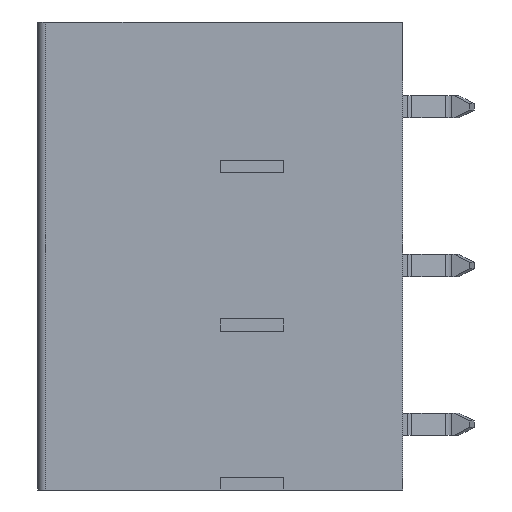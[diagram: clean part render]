
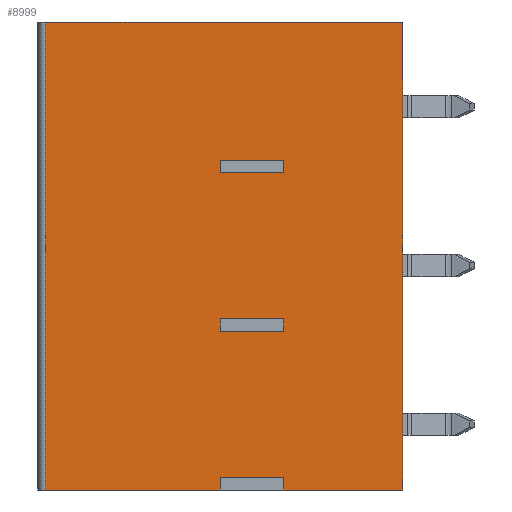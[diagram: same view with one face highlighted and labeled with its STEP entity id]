
A CAD part, left-side view. The second image highlights one B-rep face of the part: STEP entity #8999.
In plain terms, the highlighted planar face has unit normal (-1, 0, 0).
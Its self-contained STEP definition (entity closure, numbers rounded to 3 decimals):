
#119=DIRECTION('',(0.,-1.,0.));
#120=VECTOR('',#119,11.);
#121=CARTESIAN_POINT('',(1.463,22.5,-29.));
#122=LINE('',#121,#120);
#127=DIRECTION('',(0.,-1.,0.));
#128=VECTOR('',#127,7.5);
#129=CARTESIAN_POINT('',(1.463,7.5,-29.));
#130=LINE('',#129,#128);
#965=DIRECTION('',(0.,0.,-1.));
#966=VECTOR('',#965,29.5);
#967=CARTESIAN_POINT('',(1.463,0.,0.5));
#968=LINE('',#967,#966);
#969=DIRECTION('',(0.,0.,-1.));
#970=VECTOR('',#969,0.8);
#971=CARTESIAN_POINT('',(1.463,11.5,-28.2));
#972=LINE('',#971,#970);
#973=DIRECTION('',(0.,0.,-1.));
#974=VECTOR('',#973,0.8);
#975=CARTESIAN_POINT('',(1.463,11.5,-18.2));
#976=LINE('',#975,#974);
#977=DIRECTION('',(0.,0.,-1.));
#978=VECTOR('',#977,0.8);
#979=CARTESIAN_POINT('',(1.463,11.5,-8.2));
#980=LINE('',#979,#978);
#985=DIRECTION('',(0.,0.,-1.));
#986=VECTOR('',#985,29.5);
#987=CARTESIAN_POINT('',(1.463,22.5,0.5));
#988=LINE('',#987,#986);
#1038=DIRECTION('',(0.,1.,0.));
#1039=VECTOR('',#1038,22.5);
#1040=CARTESIAN_POINT('',(1.463,0.,0.5));
#1041=LINE('',#1040,#1039);
#1050=DIRECTION('',(0.,0.,-1.));
#1051=VECTOR('',#1050,0.8);
#1052=CARTESIAN_POINT('',(1.463,7.5,-28.2));
#1053=LINE('',#1052,#1051);
#1070=DIRECTION('',(0.,-1.,0.));
#1071=VECTOR('',#1070,4.);
#1072=CARTESIAN_POINT('',(1.463,11.5,-28.2));
#1073=LINE('',#1072,#1071);
#1102=DIRECTION('',(0.,-1.,0.));
#1103=VECTOR('',#1102,4.);
#1104=CARTESIAN_POINT('',(1.463,11.5,-18.2));
#1105=LINE('',#1104,#1103);
#1114=DIRECTION('',(0.,0.,-1.));
#1115=VECTOR('',#1114,0.8);
#1116=CARTESIAN_POINT('',(1.463,7.5,-18.2));
#1117=LINE('',#1116,#1115);
#1126=DIRECTION('',(0.,1.,0.));
#1127=VECTOR('',#1126,4.);
#1128=CARTESIAN_POINT('',(1.463,7.5,-19.));
#1129=LINE('',#1128,#1127);
#1142=DIRECTION('',(0.,1.,0.));
#1143=VECTOR('',#1142,4.);
#1144=CARTESIAN_POINT('',(1.463,7.5,-9.));
#1145=LINE('',#1144,#1143);
#1150=DIRECTION('',(0.,0.,-1.));
#1151=VECTOR('',#1150,0.8);
#1152=CARTESIAN_POINT('',(1.463,7.5,-8.2));
#1153=LINE('',#1152,#1151);
#1166=DIRECTION('',(0.,-1.,0.));
#1167=VECTOR('',#1166,4.);
#1168=CARTESIAN_POINT('',(1.463,11.5,-8.2));
#1169=LINE('',#1168,#1167);
#5830=CARTESIAN_POINT('',(1.463,0.,0.5));
#5831=CARTESIAN_POINT('',(1.463,0.,-29.));
#5832=VERTEX_POINT('',#5830);
#5833=VERTEX_POINT('',#5831);
#5994=CARTESIAN_POINT('',(1.463,22.5,0.5));
#5995=CARTESIAN_POINT('',(1.463,22.5,-29.));
#5996=VERTEX_POINT('',#5994);
#5997=VERTEX_POINT('',#5995);
#5998=CARTESIAN_POINT('',(1.463,7.5,-29.));
#5999=VERTEX_POINT('',#5998);
#6000=CARTESIAN_POINT('',(1.463,7.5,-28.2));
#6001=VERTEX_POINT('',#6000);
#6002=CARTESIAN_POINT('',(1.463,11.5,-28.2));
#6003=VERTEX_POINT('',#6002);
#6004=CARTESIAN_POINT('',(1.463,11.5,-29.));
#6005=VERTEX_POINT('',#6004);
#6006=CARTESIAN_POINT('',(1.463,11.5,-18.2));
#6007=CARTESIAN_POINT('',(1.463,11.5,-19.));
#6008=VERTEX_POINT('',#6006);
#6009=VERTEX_POINT('',#6007);
#6010=CARTESIAN_POINT('',(1.463,7.5,-19.));
#6011=VERTEX_POINT('',#6010);
#6012=CARTESIAN_POINT('',(1.463,7.5,-18.2));
#6013=VERTEX_POINT('',#6012);
#6014=CARTESIAN_POINT('',(1.463,11.5,-8.2));
#6015=CARTESIAN_POINT('',(1.463,11.5,-9.));
#6016=VERTEX_POINT('',#6014);
#6017=VERTEX_POINT('',#6015);
#6018=CARTESIAN_POINT('',(1.463,7.5,-9.));
#6019=VERTEX_POINT('',#6018);
#6020=CARTESIAN_POINT('',(1.463,7.5,-8.2));
#6021=VERTEX_POINT('',#6020);
#8959=CARTESIAN_POINT('',(1.463,0.,-1.5));
#8960=DIRECTION('',(-1.,0.,0.));
#8961=DIRECTION('',(0.,1.,0.));
#8962=AXIS2_PLACEMENT_3D('',#8959,#8960,#8961);
#8963=PLANE('',#8962);
#8965=ORIENTED_EDGE('',*,*,#8964,.F.);
#8967=ORIENTED_EDGE('',*,*,#8966,.F.);
#8968=ORIENTED_EDGE('',*,*,#8746,.T.);
#8969=ORIENTED_EDGE('',*,*,#7675,.F.);
#8971=ORIENTED_EDGE('',*,*,#8970,.F.);
#8973=ORIENTED_EDGE('',*,*,#8972,.F.);
#8975=ORIENTED_EDGE('',*,*,#8974,.T.);
#8976=ORIENTED_EDGE('',*,*,#7667,.F.);
#8977=EDGE_LOOP('',(#8965,#8967,#8968,#8969,#8971,#8973,#8975,#8976));
#8978=FACE_OUTER_BOUND('',#8977,.F.);
#8980=ORIENTED_EDGE('',*,*,#8979,.T.);
#8982=ORIENTED_EDGE('',*,*,#8981,.F.);
#8984=ORIENTED_EDGE('',*,*,#8983,.F.);
#8986=ORIENTED_EDGE('',*,*,#8985,.F.);
#8987=EDGE_LOOP('',(#8980,#8982,#8984,#8986));
#8988=FACE_BOUND('',#8987,.F.);
#8990=ORIENTED_EDGE('',*,*,#8989,.T.);
#8992=ORIENTED_EDGE('',*,*,#8991,.F.);
#8994=ORIENTED_EDGE('',*,*,#8993,.F.);
#8996=ORIENTED_EDGE('',*,*,#8995,.F.);
#8997=EDGE_LOOP('',(#8990,#8992,#8994,#8996));
#8998=FACE_BOUND('',#8997,.F.);
#8999=ADVANCED_FACE('',(#8978,#8988,#8998),#8963,.T.);
#7667=EDGE_CURVE('',#5997,#6005,#122,.T.);
#7675=EDGE_CURVE('',#5999,#5833,#130,.T.);
#8746=EDGE_CURVE('',#5832,#5833,#968,.T.);
#8964=EDGE_CURVE('',#5996,#5997,#988,.T.);
#8966=EDGE_CURVE('',#5832,#5996,#1041,.T.);
#8970=EDGE_CURVE('',#6001,#5999,#1053,.T.);
#8972=EDGE_CURVE('',#6003,#6001,#1073,.T.);
#8974=EDGE_CURVE('',#6003,#6005,#972,.T.);
#8979=EDGE_CURVE('',#6008,#6009,#976,.T.);
#8981=EDGE_CURVE('',#6011,#6009,#1129,.T.);
#8983=EDGE_CURVE('',#6013,#6011,#1117,.T.);
#8985=EDGE_CURVE('',#6008,#6013,#1105,.T.);
#8989=EDGE_CURVE('',#6016,#6017,#980,.T.);
#8991=EDGE_CURVE('',#6019,#6017,#1145,.T.);
#8993=EDGE_CURVE('',#6021,#6019,#1153,.T.);
#8995=EDGE_CURVE('',#6016,#6021,#1169,.T.);
